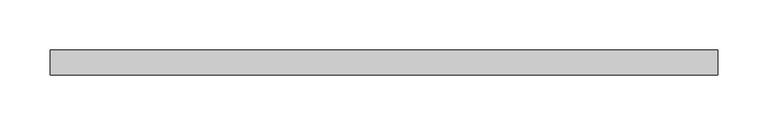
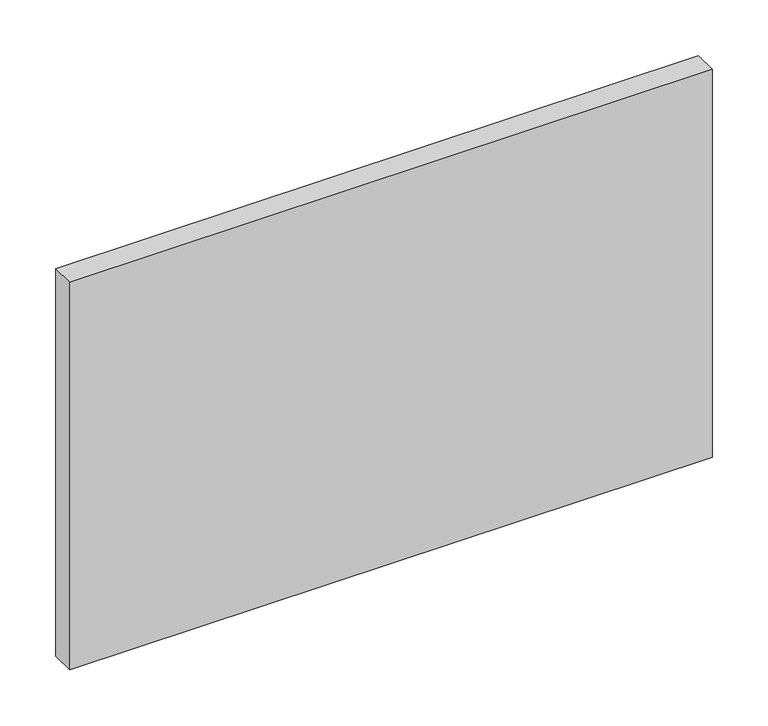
"""IFC4 building model written with IfcOpenShell, lengths in millimetres: plate geometry, システム パネル1 : ガラス."""

import ifcopenshell
import ifcopenshell.guid

model = None  # the IFC model being written
_history = None  # IfcOwnerHistory: only IFC2X3 demands one
_inside = {}  # id of a spatial element -> (the spatial element, [elements in it])
_under = {}  # id of a project, library or spatial element -> (it, [spatial elements below it])
_declared = {}  # id of a project -> (the project, [libraries it declares])
_typed = {}  # id of a type object -> (the type object, [elements of that type])
_made_of = {}  # id of a material, layer set ... -> (it, [elements and type objects made of it])


def new_model(schema):
    """Start an empty IFC model of exactly this schema.

    Asked for "IFC4X3", IfcOpenShell would pick the latest addendum, in which some entities
    have other attributes; the version numbers below select the first issue.
    IFC2X3 requires an IfcOwnerHistory on every rooted entity: one is made here for all.
    """
    global model, _history
    if schema == "IFC4X3":
        model = ifcopenshell.file(schema_version=(4, 3, 0, 0))
    else:
        model = ifcopenshell.file(schema=schema)
    _inside.clear()
    _under.clear()
    _declared.clear()
    _typed.clear()
    _made_of.clear()
    _history = None
    if model.schema == "IFC2X3":
        org = make("IfcOrganization", Name="unknown")
        user = make(
            "IfcPersonAndOrganization",
            ThePerson=make("IfcPerson", FamilyName="unknown"),
            TheOrganization=org,
        )
        app = make(
            "IfcApplication",
            ApplicationDeveloper=org,
            Version="unknown",
            ApplicationFullName="unknown",
            ApplicationIdentifier="unknown",
        )
        _history = make(
            "IfcOwnerHistory",
            OwningUser=user,
            OwningApplication=app,
            ChangeAction="ADDED",
            CreationDate=0,
        )
    return model


def make(cls, **values):
    """One entity of the class cls with the attributes given. An attribute that is None is left unset."""
    return model.create_entity(
        cls, **{name: value for name, value in values.items() if value is not None}
    )


def rooted(cls, **values):
    """An entity with a GlobalId (a new one), such as an element, a storey or a relation."""
    return make(cls, GlobalId=ifcopenshell.guid.new(), OwnerHistory=_history, **values)


def si_unit(unit_type, name, prefix=None):
    """IfcSIUnit, for example si_unit("LENGTHUNIT", "METRE", prefix="MILLI")."""
    return make("IfcSIUnit", UnitType=unit_type, Prefix=prefix, Name=name)


def assignment(units):
    """IfcUnitAssignment: the units of a project."""
    return None if units is None else make("IfcUnitAssignment", Units=units)


def point(xyz):
    """IfcCartesianPoint."""
    return None if xyz is None else make("IfcCartesianPoint", Coordinates=xyz)


def direction(xyz):
    """IfcDirection."""
    return None if xyz is None else make("IfcDirection", DirectionRatios=xyz)


def frame(location, z_axis=None, x_axis=None):
    """IfcAxis2Placement3D, a coordinate frame: its origin and axes. An axis left out is left unset."""
    return make(
        "IfcAxis2Placement3D",
        Location=point(location),
        Axis=direction(z_axis),
        RefDirection=direction(x_axis),
    )


def origin():
    """The frame at (0, 0, 0) with its axes left unset."""
    return frame((0.0, 0.0, 0.0))


def origin_with_axes():
    """The frame at (0, 0, 0) with the z axis (0, 0, 1) and the x axis (1, 0, 0) written out."""
    return frame((0.0, 0.0, 0.0), z_axis=(0.0, 0.0, 1.0), x_axis=(1.0, 0.0, 0.0))


def place(relative_to, where):
    """IfcLocalPlacement: puts the frame where relative to a parent placement (None: the world)."""
    return make(
        "IfcLocalPlacement", PlacementRelTo=relative_to, RelativePlacement=where
    )


def context(
    kind, dimensions, precision=None, world=None, true_north=None, identifier=None
):
    """IfcGeometricRepresentationContext, for example the 3D "Model" context."""
    return make(
        "IfcGeometricRepresentationContext",
        ContextIdentifier=identifier,
        ContextType=kind,
        CoordinateSpaceDimension=dimensions,
        Precision=precision,
        WorldCoordinateSystem=world,
        TrueNorth=true_north,
    )


def project(units=None, contexts=None):
    """IfcProject with its units and contexts."""
    return rooted(
        "IfcProject",
        Name="project",
        RepresentationContexts=contexts,
        UnitsInContext=assignment(units),
    )


def spatial(cls, under=None, at=None, **own):
    """A site, building, storey or space (cls), placed at a placement, below another one or the project."""
    s = rooted(cls, ObjectPlacement=at, **own)
    if under is not None:
        _under.setdefault(under.id(), (under, []))[1].append(s)
    return s


def polyline(points):
    """IfcPolyline through the points."""
    return make("IfcPolyline", Points=[point(p) for p in points])


def outline(outer, holes=None, kind="AREA"):
    """IfcArbitraryClosedProfileDef: a profile drawn as a closed curve; with holes, ...WithVoids."""
    if holes is None:
        return make("IfcArbitraryClosedProfileDef", ProfileType=kind, OuterCurve=outer)
    return make(
        "IfcArbitraryProfileDefWithVoids",
        ProfileType=kind,
        OuterCurve=outer,
        InnerCurves=holes,
    )


def extrude(swept, where, along, depth):
    """IfcExtrudedAreaSolid: the profile swept, set in the frame where, extruded along a direction by depth."""
    return make(
        "IfcExtrudedAreaSolid",
        SweptArea=swept,
        Position=where,
        ExtrudedDirection=direction(along),
        Depth=depth,
    )


def shape(context_of_items, identifier, shape_type, items):
    """IfcShapeRepresentation: the items that make up one representation, for example the "Body"."""
    return make(
        "IfcShapeRepresentation",
        ContextOfItems=context_of_items,
        RepresentationIdentifier=identifier,
        RepresentationType=shape_type,
        Items=items,
    )


def source(mapping_origin, context_of_items, identifier, shape_type, items):
    """IfcRepresentationMap: a shape defined once, which mapped items show again and again."""
    return make(
        "IfcRepresentationMap",
        MappingOrigin=mapping_origin,
        MappedRepresentation=shape(context_of_items, identifier, shape_type, items),
    )


def transform(
    local_origin,
    x_axis=None,
    y_axis=None,
    z_axis=None,
    scale=None,
    scale2=None,
    scale3=None,
    uniform=True,
):
    """IfcCartesianTransformationOperator3D, or its non-uniform kind. x_axis, y_axis, z_axis: its Axis1, 2, 3."""
    if uniform:
        return make(
            "IfcCartesianTransformationOperator3D",
            Axis1=direction(x_axis),
            Axis2=direction(y_axis),
            LocalOrigin=point(local_origin),
            Scale=scale,
            Axis3=direction(z_axis),
        )
    return make(
        "IfcCartesianTransformationOperator3DnonUniform",
        Axis1=direction(x_axis),
        Axis2=direction(y_axis),
        LocalOrigin=point(local_origin),
        Scale=scale,
        Axis3=direction(z_axis),
        Scale2=scale2,
        Scale3=scale3,
    )


def mapped(mapping_source, mapping_target):
    """IfcMappedItem: shows the shape of a source again, moved by a transform."""
    return make(
        "IfcMappedItem", MappingSource=mapping_source, MappingTarget=mapping_target
    )


def made_of(thing, what):
    """Note that an element or type object is made of a material, layer set ...; save() writes the relation."""
    if what is not None:
        _made_of.setdefault(what.id(), (what, []))[1].append(thing)
    return thing


def element(
    cls,
    number,
    at=None,
    inside=None,
    cuts=None,
    type_object=None,
    material=None,
    context=None,
    identifier="Body",
    shape_type=None,
    held_by="IfcProductDefinitionShape",
    body=None,
    shapes=None,
    **own,
):
    """One element of the class cls, such as IfcWall. Its Tag is "e" and its number.

    at: its placement. inside: the storey or other place that contains it. cuts: it is an
    opening in that element (IfcRelVoidsElement). A single representation is given by context,
    identifier, shape_type and body (its items); several are given by shapes. held_by: the class
    of the entity that holds the representations. save() writes the other relations.
    """
    e = rooted(cls, Tag="e%d" % number, ObjectPlacement=at, **own)
    if body is not None:
        shapes = [shape(context, identifier, shape_type, body)]
    if shapes is not None:
        e.Representation = make(held_by, Representations=shapes)
    if inside is not None:
        _inside.setdefault(inside.id(), (inside, []))[1].append(e)
    if cuts is not None:
        rooted(
            "IfcRelVoidsElement", RelatingBuildingElement=cuts, RelatedOpeningElement=e
        )
    if type_object is not None:
        _typed.setdefault(type_object.id(), (type_object, []))[1].append(e)
    return made_of(e, material)


def aggregate(whole, parts):
    """IfcRelAggregates: a whole, such as a stair, and the parts it consists of."""
    return rooted("IfcRelAggregates", RelatingObject=whole, RelatedObjects=parts)


def save(model, path):
    """Write the relations noted so far, then the file.

    IfcRelAggregates (storeys below a building ...), IfcRelContainedInSpatialStructure (elements
    in a storey), IfcRelDefinesByType, IfcRelAssociatesMaterial and IfcRelDeclares: one each for
    every whole, place, type object, material and project.
    """
    for whole, parts in _under.values():
        aggregate(whole, parts)
    for where, things in _inside.values():
        rooted(
            "IfcRelContainedInSpatialStructure",
            RelatedElements=things,
            RelatingStructure=where,
        )
    for kind, things in _typed.values():
        rooted("IfcRelDefinesByType", RelatedObjects=things, RelatingType=kind)
    for what, things in _made_of.values():
        rooted("IfcRelAssociatesMaterial", RelatedObjects=things, RelatingMaterial=what)
    for by, libraries in _declared.values():
        rooted("IfcRelDeclares", RelatingContext=by, RelatedDefinitions=libraries)
    model.write(path)


def plate_3f01d40e(model_context):
    return source(origin(), model_context, "Body", "SweptSolid", [
        extrude(outline(polyline([(333.3333333, 24.5), (-333.3333333, 24.5), (-333.3333333, 49.5), (333.3333333, 49.5), (333.3333333, 24.5)])), origin_with_axes(), (0.0, 0.0, 1.0), 425.0),
    ])


if __name__ == "__main__":
    model = new_model("IFC4")
    model_context = context("Model", 3, world=origin())
    ifc_project = project(units=[si_unit("LENGTHUNIT", "METRE", prefix="MILLI")], contexts=[model_context])
    site = spatial("IfcSite", under=ifc_project)
    building = spatial("IfcBuilding", under=site)
    placement = place(None, origin())
    plate_shape = plate_3f01d40e(model_context)
    element("IfcPlate", 1, ObjectType="システム パネル1 : ガラス", at=placement, inside=building, context=model_context, shape_type="MappedRepresentation", body=[
        mapped(plate_shape, transform((0.0, 0.0, 0.0), x_axis=(1.0, 0.0, 0.0), y_axis=(0.0, 1.0, 0.0), z_axis=(0.0, 0.0, 1.0))),
    ])
    save(model, "model.ifc")
